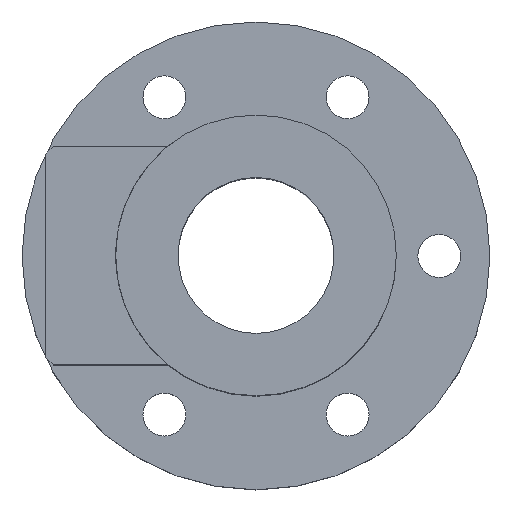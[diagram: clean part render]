
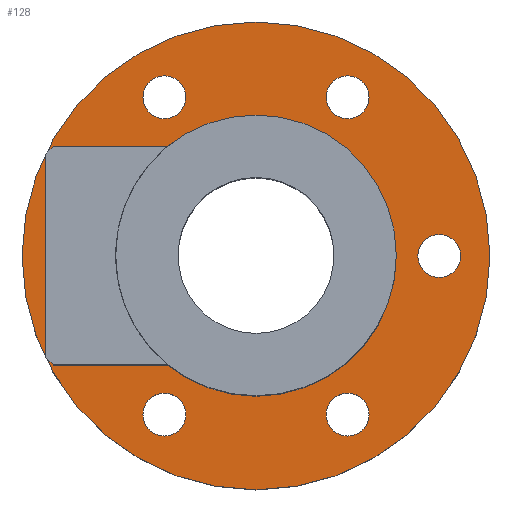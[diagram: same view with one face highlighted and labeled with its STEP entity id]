
A CAD part, top view. The second image highlights one B-rep face of the part: STEP entity #128.
In plain terms, the highlighted planar face has unit normal (0, 0, 1).
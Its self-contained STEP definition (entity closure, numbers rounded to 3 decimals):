
#97=PLANE('',#515);
#112=FACE_OUTER_BOUND('',#251,.T.);
#128=ADVANCED_FACE('',(#203,#204,#205,#112,#206,#207,#208),#97,.T.);
#203=FACE_BOUND('',#248,.T.);
#204=FACE_BOUND('',#249,.T.);
#205=FACE_BOUND('',#250,.T.);
#206=FACE_BOUND('',#252,.T.);
#207=FACE_BOUND('',#253,.T.);
#208=FACE_BOUND('',#254,.T.);
#248=EDGE_LOOP('',(#311));
#249=EDGE_LOOP('',(#312));
#250=EDGE_LOOP('',(#313));
#251=EDGE_LOOP('',(#314));
#252=EDGE_LOOP('',(#315));
#253=EDGE_LOOP('',(#316));
#254=EDGE_LOOP('',(#317));
#311=ORIENTED_EDGE('',*,*,#437,.F.);
#312=ORIENTED_EDGE('',*,*,#438,.F.);
#313=ORIENTED_EDGE('',*,*,#432,.F.);
#314=ORIENTED_EDGE('',*,*,#439,.T.);
#315=ORIENTED_EDGE('',*,*,#440,.F.);
#316=ORIENTED_EDGE('',*,*,#441,.F.);
#317=ORIENTED_EDGE('',*,*,#442,.F.);
#394=VERTEX_POINT('',#694);
#399=VERTEX_POINT('',#705);
#400=VERTEX_POINT('',#707);
#401=VERTEX_POINT('',#709);
#402=VERTEX_POINT('',#711);
#403=VERTEX_POINT('',#713);
#404=VERTEX_POINT('',#715);
#432=EDGE_CURVE('',#394,#394,#476,.T.);
#437=EDGE_CURVE('',#399,#399,#479,.T.);
#438=EDGE_CURVE('',#400,#400,#480,.T.);
#439=EDGE_CURVE('',#401,#401,#481,.T.);
#440=EDGE_CURVE('',#402,#402,#482,.T.);
#441=EDGE_CURVE('',#403,#403,#483,.T.);
#442=EDGE_CURVE('',#404,#404,#484,.T.);
#476=CIRCLE('',#505,18.);
#479=CIRCLE('',#509,2.75);
#480=CIRCLE('',#510,2.75);
#481=CIRCLE('',#511,30.);
#482=CIRCLE('',#512,2.75);
#483=CIRCLE('',#513,2.75);
#484=CIRCLE('',#514,2.75);
#505=AXIS2_PLACEMENT_3D('',#693,#564,#565);
#509=AXIS2_PLACEMENT_3D('',#704,#574,#575);
#510=AXIS2_PLACEMENT_3D('',#706,#576,#577);
#511=AXIS2_PLACEMENT_3D('',#708,#578,#579);
#512=AXIS2_PLACEMENT_3D('',#710,#580,#581);
#513=AXIS2_PLACEMENT_3D('',#712,#582,#583);
#514=AXIS2_PLACEMENT_3D('',#714,#584,#585);
#515=AXIS2_PLACEMENT_3D('',#716,#586,#587);
#564=DIRECTION('',(0.,0.,1.));
#565=DIRECTION('',(1.,0.,0.));
#574=DIRECTION('',(0.,0.,1.));
#575=DIRECTION('',(-0.5,-0.866,0.));
#576=DIRECTION('',(0.,0.,1.));
#577=DIRECTION('',(0.5,0.866,0.));
#578=DIRECTION('',(0.,0.,1.));
#579=DIRECTION('',(1.,0.,0.));
#580=DIRECTION('',(0.,0.,1.));
#581=DIRECTION('',(1.,0.,0.));
#582=DIRECTION('',(0.,0.,1.));
#583=DIRECTION('',(-1.,0.,0.));
#584=DIRECTION('',(0.,0.,1.));
#585=DIRECTION('',(0.5,-0.866,0.));
#586=DIRECTION('',(0.,0.,1.));
#587=DIRECTION('',(1.,0.,0.));
#693=CARTESIAN_POINT('',(0.,0.,12.));
#694=CARTESIAN_POINT('',(18.,0.,12.));
#704=CARTESIAN_POINT('',(11.75,-20.352,12.));
#705=CARTESIAN_POINT('',(10.375,-22.733,12.));
#706=CARTESIAN_POINT('',(-11.75,20.352,12.));
#707=CARTESIAN_POINT('',(-10.375,22.733,12.));
#708=CARTESIAN_POINT('',(0.,0.,12.));
#709=CARTESIAN_POINT('',(30.,0.,12.));
#710=CARTESIAN_POINT('',(11.75,20.352,12.));
#711=CARTESIAN_POINT('',(14.5,20.352,12.));
#712=CARTESIAN_POINT('',(-11.75,-20.352,12.));
#713=CARTESIAN_POINT('',(-14.5,-20.352,12.));
#714=CARTESIAN_POINT('',(23.5,0.,12.));
#715=CARTESIAN_POINT('',(24.875,-2.382,12.));
#716=CARTESIAN_POINT('',(0.,0.,12.));
